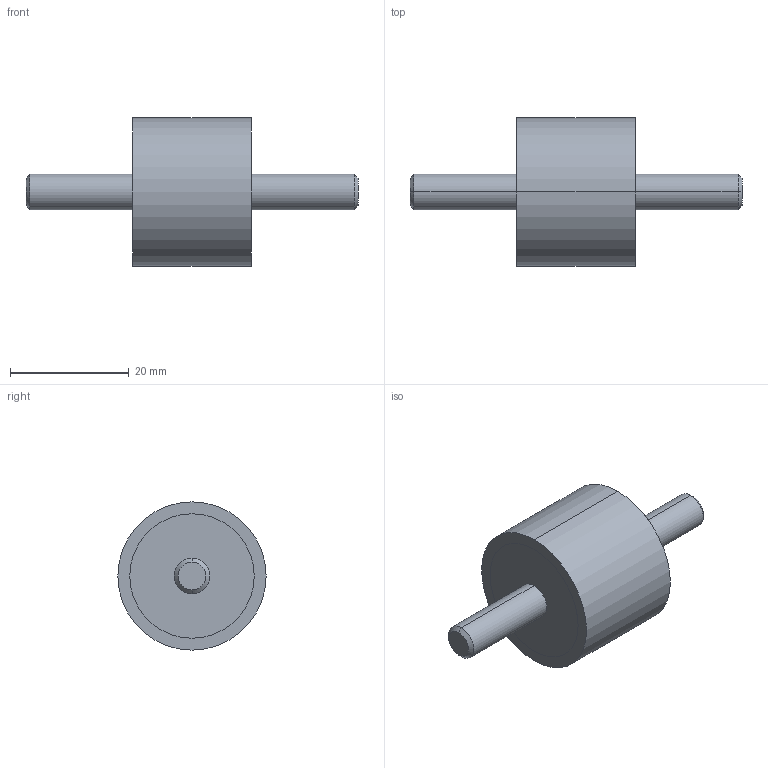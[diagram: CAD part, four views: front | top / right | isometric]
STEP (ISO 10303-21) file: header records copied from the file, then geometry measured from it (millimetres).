
FILE_DESCRIPTION (( 'STEP AP214' ), '1' );
FILE_NAME ('351-25-20-M6-SS-70.step', '2025-07-23T09:45:08', ( '' ), ( '' ), 'SwSTEP 2.0', 'SolidWorks 2022', '' );
FILE_SCHEMA (( 'AUTOMOTIVE_DESIGN' ));
Length unit declared in the file: millimetre
Products named in the file (1): 351-25-20-M6-SS-70
Bounding box: 56 x 25 x 25 mm (x, y, z)
Volume: 10821.6 mm3; surface area: 3217.4 mm2
Topology: 1 solids, 1 shells, 20 faces, 38 edges, 24 vertices
Faces by surface type: cylinder 10, plane 6, cone 4
Entity records: 636 total; most frequent: DIRECTION 104, CARTESIAN_POINT 83, ORIENTED_EDGE 76, AXIS2_PLACEMENT_3D 45, EDGE_CURVE 38, VERTEX_POINT 24, EDGE_LOOP 24, CIRCLE 24
